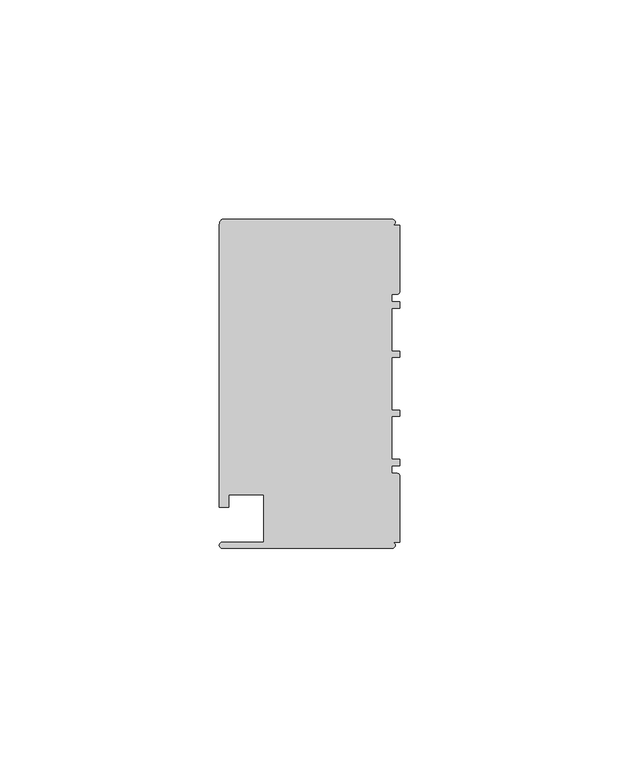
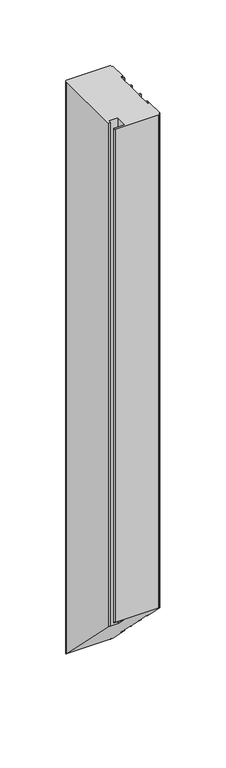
"""IFC4 building model written with IfcOpenShell, lengths in millimetres: member geometry, Прямоугольный импост : 1-AMG-1-Профиль 40Х75 Верх П."""

from ifc_helpers import new_model, si_unit, frame, origin, place, context, project, spatial, circle_curve, ellipse_curve, source, transform, mapped, element, save
from ifc_brep_helpers import plane_surface, cylinder_surface, advanced_brep


def member_78b921d7(model_context):
    return source(origin(), model_context, "Body", "AdvancedBrep", [
        advanced_brep(
        [(-1.7, -37.5, 0.0), (-1.7, -36.1, 0.0), (0.0, -36.1, 0.0), (0.0, -20.95, 0.0), (-0.5, -20.45, 0.0), (-1.8, -20.45, 0.0), (-1.8, -18.65, 0.0), (0.0, -18.65, 0.0), (0.0, -17.25, 0.0), (-1.8, -17.25, 0.0), (-1.8, -7.4, 0.0), (0.0, -7.4, 0.0), (0.0, -6.0, 0.0), (-1.8, -6.0, 0.0), (-1.8, 6.0, 0.0), (0.0, 6.0, 0.0), (0.0, 7.4, 0.0), (-1.8, 7.4, 0.0), (-1.8, 17.25, 0.0), (0.0, 17.25, 0.0), (0.0, 18.65, 0.0), (-1.8, 18.65, 0.0), (-1.8, 20.45, 0.0), (-0.5, 20.45, 0.0), (0.0, 20.95, 0.0), (0.0, 36.1, 0.0), (-1.7, 36.1, 0.0), (-1.7, 37.5, 0.0), (-40.4, 37.5, 0.0), (-41.1, 36.1, 0.0), (-41.1, -28.1, 0.0), (-39.0, -28.1, 0.0), (-39.0, -25.25, 0.0), (-31.0, -25.25, 0.0), (-31.0, -36.1, 0.0), (-40.4, -36.1, 0.0), (-40.4, -37.5, 0.0), (-1.7, -37.5, -461.3849139), (-1.7, -36.1, -462.7849139), (0.0, -36.1, -462.7849139), (0.0, -20.95, -477.9349139), (-0.5, -20.45, -478.4349139), (-1.8, -20.45, -478.4349139), (-1.8, -18.65, -480.2349139), (0.0, -18.65, -480.2349139), (0.0, -17.25, -481.6349139), (-1.8, -17.25, -481.6349139), (-1.8, -7.4, -491.4849139), (0.0, -7.4, -491.4849139), (0.0, -6.0, -492.8849139), (-1.8, -6.0, -492.8849139), (-1.8, 6.0, -504.8849139), (0.0, 6.0, -504.8849139), (0.0, 7.4, -506.2849139), (-1.8, 7.4, -506.2849139), (-1.8, 17.25, -516.1349139), (0.0, 17.25, -516.1349139), (0.0, 18.65, -517.5349139), (-1.8, 18.65, -517.5349139), (-1.8, 20.45, -519.3349139), (-0.5, 20.45, -519.3349139), (0.0, 20.95, -519.8349139), (0.0, 36.1, -534.9849139), (-1.7, 36.1, -534.9849139), (-1.7, 37.5, -536.3849139), (-40.4, 37.5, -536.3849139), (-41.1, 36.1, -534.9849139), (-41.1, -28.1, -470.7849139), (-39.0, -28.1, -470.7849139), (-39.0, -25.25, -473.6349139), (-31.0, -25.25, -473.6349139), (-31.0, -36.1, -462.7849139), (-40.4, -36.1, -462.7849139), (-40.4, -37.5, -461.3849139)],
        [
            (0, 1, circle_curve(frame((-1.7, -36.8, 0.0), z_axis=(0.0, 0.0, 1.0), x_axis=(-1.0, 0.0, 0.0)), 0.7)),
            (1, 2),
            (2, 3),
            (3, 4, circle_curve(frame((-0.5, -20.95, 0.0), z_axis=(0.0, 0.0, 1.0), x_axis=(1.0, 0.0, 0.0)), 0.5)),
            (4, 5),
            (5, 6),
            (6, 7),
            (7, 8),
            (8, 9),
            (9, 10),
            (10, 11),
            (11, 12),
            (12, 13),
            (13, 14),
            (14, 15),
            (15, 16),
            (16, 17),
            (17, 18),
            (18, 19),
            (19, 20),
            (20, 21),
            (21, 22),
            (22, 23),
            (23, 24, circle_curve(frame((-0.5, 20.95, 0.0), z_axis=(0.0, 0.0, 1.0), x_axis=(0.0, -1.0, 0.0)), 0.5)),
            (24, 25),
            (25, 26),
            (26, 27, circle_curve(frame((-1.7, 36.8, 0.0), z_axis=(0.0, 0.0, 1.0), x_axis=(-1.0, 0.0, 0.0)), 0.7)),
            (27, 28),
            (28, 29, circle_curve(frame((-39.7541527, 36.3020763, 0.0), z_axis=(0.0, 0.0, 1.0), x_axis=(1.0, 0.0, 0.0)), 1.3609334)),
            (29, 30),
            (30, 31),
            (31, 32),
            (32, 33),
            (33, 34),
            (34, 35),
            (35, 36, circle_curve(frame((-40.4, -36.8, 0.0), z_axis=(0.0, 0.0, 1.0), x_axis=(-1.0, 0.0, 0.0)), 0.7)),
            (36, 0),
            (0, 37),
            (37, 38, ellipse_curve(frame((-1.7, -36.8, -462.0849139), z_axis=(0.0, 0.7071067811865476, 0.7071067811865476), x_axis=(0.0, -0.7071067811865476, 0.7071067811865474)), 0.9899495, 0.7)),
            (38, 1),
            (38, 39),
            (39, 2),
            (39, 40),
            (40, 3),
            (40, 41, ellipse_curve(frame((-0.5, -20.95, -477.9349139), z_axis=(0.0, 0.7071067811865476, 0.7071067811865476), x_axis=(0.0, -0.7071067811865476, 0.7071067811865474)), 0.7071068, 0.5)),
            (41, 4),
            (41, 42),
            (42, 5),
            (42, 43),
            (43, 6),
            (43, 44),
            (44, 7),
            (44, 45),
            (45, 8),
            (45, 46),
            (46, 9),
            (46, 47),
            (47, 10),
            (47, 48),
            (48, 11),
            (48, 49),
            (49, 12),
            (49, 50),
            (50, 13),
            (50, 51),
            (51, 14),
            (51, 52),
            (52, 15),
            (52, 53),
            (53, 16),
            (53, 54),
            (54, 17),
            (54, 55),
            (55, 18),
            (55, 56),
            (56, 19),
            (56, 57),
            (57, 20),
            (57, 58),
            (58, 21),
            (58, 59),
            (59, 22),
            (59, 60),
            (60, 23),
            (60, 61, ellipse_curve(frame((-0.5, 20.95, -519.8349139), z_axis=(0.0, 0.7071067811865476, 0.7071067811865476), x_axis=(0.0, -0.7071067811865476, 0.7071067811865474)), 0.7071068, 0.5)),
            (61, 24),
            (61, 62),
            (62, 25),
            (62, 63),
            (63, 26),
            (63, 64, ellipse_curve(frame((-1.7, 36.8, -535.6849139), z_axis=(0.0, 0.7071067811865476, 0.7071067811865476), x_axis=(0.0, -0.7071067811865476, 0.7071067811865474)), 0.9899495, 0.7)),
            (64, 27),
            (64, 65),
            (65, 28),
            (65, 66, ellipse_curve(frame((-39.7541527, 36.3020763, -535.1869902), z_axis=(0.0, 0.7071067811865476, 0.7071067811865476), x_axis=(0.0, -0.7071067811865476, 0.7071067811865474)), 1.9246505, 1.3609334)),
            (66, 29),
            (66, 67),
            (67, 30),
            (67, 68),
            (68, 31),
            (68, 69),
            (69, 32),
            (69, 70),
            (70, 33),
            (70, 71),
            (71, 34),
            (71, 72),
            (72, 35),
            (72, 73, ellipse_curve(frame((-40.4, -36.8, -462.0849139), z_axis=(0.0, 0.7071067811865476, 0.7071067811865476), x_axis=(0.0, -0.7071067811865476, 0.7071067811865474)), 0.9899495, 0.7)),
            (73, 36),
            (73, 37),
        ],
        [
            plane_surface(frame((0.0, -55.1674723, 0.0), z_axis=(0.0, 0.0, 1.0), x_axis=(-1.0, 0.0, 0.0))),
            cylinder_surface(frame((-1.7, -36.8, 0.0), z_axis=(0.0, 0.0, 1.0), x_axis=(-1.0, 0.0, 0.0)), 0.7),
            plane_surface(frame((-1.7, -36.1, 0.0), z_axis=(0.0, -1.0, 0.0), x_axis=(0.0, 0.0, -1.0))),
            plane_surface(frame((0.0, -36.1, 0.0), z_axis=(1.0, 0.0, 0.0), x_axis=(0.0, 0.0, -1.0))),
            cylinder_surface(frame((-0.5, -20.95, 0.0), z_axis=(0.0, 0.0, 1.0), x_axis=(1.0, 0.0, 0.0)), 0.5),
            plane_surface(frame((-0.5, -20.45, 0.0), z_axis=(0.0, 1.0, 0.0), x_axis=(0.0, 0.0, -1.0))),
            plane_surface(frame((-1.8, -20.45, 0.0), z_axis=(1.0, 0.0, 0.0), x_axis=(0.0, 0.0, -1.0))),
            plane_surface(frame((-1.8, -18.65, 0.0), z_axis=(0.0, -1.0, 0.0), x_axis=(0.0, 0.0, -1.0))),
            plane_surface(frame((0.0, -18.65, 0.0), z_axis=(1.0, 0.0, 0.0), x_axis=(0.0, 0.0, -1.0))),
            plane_surface(frame((0.0, -17.25, 0.0), z_axis=(0.0, 1.0, 0.0), x_axis=(0.0, 0.0, -1.0))),
            plane_surface(frame((-1.8, -17.25, 0.0), z_axis=(1.0, 0.0, 0.0), x_axis=(0.0, 0.0, -1.0))),
            plane_surface(frame((-1.8, -7.4, 0.0), z_axis=(0.0, -1.0, 0.0), x_axis=(0.0, 0.0, -1.0))),
            plane_surface(frame((0.0, -7.4, 0.0), z_axis=(1.0, 0.0, 0.0), x_axis=(0.0, 0.0, -1.0))),
            plane_surface(frame((0.0, -6.0, 0.0), z_axis=(0.0, 1.0, 0.0), x_axis=(0.0, 0.0, -1.0))),
            plane_surface(frame((-1.8, -6.0, 0.0), z_axis=(1.0, 0.0, 0.0), x_axis=(0.0, 0.0, -1.0))),
            plane_surface(frame((-1.8, 6.0, 0.0), z_axis=(0.0, -1.0, 0.0), x_axis=(0.0, 0.0, -1.0))),
            plane_surface(frame((0.0, 6.0, 0.0), z_axis=(1.0, 0.0, 0.0), x_axis=(0.0, 0.0, -1.0))),
            plane_surface(frame((0.0, 7.4, 0.0), z_axis=(0.0, 1.0, 0.0), x_axis=(0.0, 0.0, -1.0))),
            plane_surface(frame((-1.8, 7.4, 0.0), z_axis=(1.0, 0.0, 0.0), x_axis=(0.0, 0.0, -1.0))),
            plane_surface(frame((-1.8, 17.25, 0.0), z_axis=(0.0, -1.0, 0.0), x_axis=(0.0, 0.0, -1.0))),
            plane_surface(frame((0.0, 17.25, 0.0), z_axis=(1.0, 0.0, 0.0), x_axis=(0.0, 0.0, -1.0))),
            plane_surface(frame((0.0, 18.65, 0.0), z_axis=(0.0, 1.0, 0.0), x_axis=(0.0, 0.0, -1.0))),
            plane_surface(frame((-1.8, 18.65, 0.0), z_axis=(1.0, 0.0, 0.0), x_axis=(0.0, 0.0, -1.0))),
            plane_surface(frame((-1.8, 20.45, 0.0), z_axis=(0.0, -1.0, 0.0), x_axis=(0.0, 0.0, -1.0))),
            cylinder_surface(frame((-0.5, 20.95, 0.0), z_axis=(0.0, 0.0, 1.0), x_axis=(0.0, -1.0, 0.0)), 0.5),
            plane_surface(frame((0.0, 20.95, 0.0), z_axis=(1.0, 0.0, 0.0), x_axis=(0.0, 0.0, -1.0))),
            plane_surface(frame((0.0, 36.1, 0.0), z_axis=(0.0, 1.0, 0.0), x_axis=(0.0, 0.0, -1.0))),
            cylinder_surface(frame((-1.7, 36.8, 0.0), z_axis=(0.0, 0.0, 1.0), x_axis=(-1.0, 0.0, 0.0)), 0.7),
            plane_surface(frame((-1.7, 37.5, 0.0), z_axis=(0.0, 1.0, 0.0), x_axis=(0.0, 0.0, -1.0))),
            cylinder_surface(frame((-39.7541527, 36.3020763, 0.0), z_axis=(0.0, 0.0, 1.0), x_axis=(1.0, 0.0, 0.0)), 1.3609334),
            plane_surface(frame((-41.1, 36.1, 0.0), z_axis=(-1.0, 0.0, 0.0), x_axis=(0.0, 0.0, -1.0))),
            plane_surface(frame((-41.1, -28.1, 0.0), z_axis=(0.0, -1.0, 0.0), x_axis=(0.0, 0.0, -1.0))),
            plane_surface(frame((-39.0, -28.1, 0.0), z_axis=(1.0, 0.0, 0.0), x_axis=(0.0, 0.0, -1.0))),
            plane_surface(frame((-39.0, -25.25, 0.0), z_axis=(0.0, -1.0, 0.0), x_axis=(0.0, 0.0, -1.0))),
            plane_surface(frame((-31.0, -25.25, 0.0), z_axis=(-1.0, 0.0, 0.0), x_axis=(0.0, 0.0, -1.0))),
            plane_surface(frame((-31.0, -36.1, 0.0), z_axis=(0.0, 1.0, 0.0), x_axis=(0.0, 0.0, -1.0))),
            cylinder_surface(frame((-40.4, -36.8, 0.0), z_axis=(0.0, 0.0, 1.0), x_axis=(-1.0, 0.0, 0.0)), 0.7),
            plane_surface(frame((-40.4, -37.5, 0.0), z_axis=(0.0, -1.0, 0.0), x_axis=(0.0, 0.0, -1.0))),
            plane_surface(frame((304.8, 0.0, -498.8849139), z_axis=(0.0, -0.7071067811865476, -0.7071067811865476), x_axis=(0.0, -0.7071067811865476, 0.7071067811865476))),
        ],
        [
            (0, [[1, 2, 3, 4, 5, 6, 7, 8, 9, 10, 11, 12, 13, 14, 15, 16, 17, 18, 19, 20, 21, 22, 23, 24, 25, 26, 27, 28, 29, 30, 31, 32, 33, 34, 35, 36, 37]]),
            (1, [[-1, 38, 39, 40]]),
            (2, [[-2, -40, 41, 42]]),
            (3, [[-3, -42, 43, 44]]),
            (4, [[-4, -44, 45, 46]]),
            (5, [[-5, -46, 47, 48]]),
            (6, [[-6, -48, 49, 50]]),
            (7, [[-7, -50, 51, 52]]),
            (8, [[-8, -52, 53, 54]]),
            (9, [[-9, -54, 55, 56]]),
            (10, [[-10, -56, 57, 58]]),
            (11, [[-11, -58, 59, 60]]),
            (12, [[-12, -60, 61, 62]]),
            (13, [[-13, -62, 63, 64]]),
            (14, [[-14, -64, 65, 66]]),
            (15, [[-15, -66, 67, 68]]),
            (16, [[-16, -68, 69, 70]]),
            (17, [[-17, -70, 71, 72]]),
            (18, [[-18, -72, 73, 74]]),
            (19, [[-19, -74, 75, 76]]),
            (20, [[-20, -76, 77, 78]]),
            (21, [[-21, -78, 79, 80]]),
            (22, [[-22, -80, 81, 82]]),
            (23, [[-23, -82, 83, 84]]),
            (24, [[-24, -84, 85, 86]]),
            (25, [[-25, -86, 87, 88]]),
            (26, [[-26, -88, 89, 90]]),
            (27, [[-27, -90, 91, 92]]),
            (28, [[-28, -92, 93, 94]]),
            (29, [[-29, -94, 95, 96]]),
            (30, [[-30, -96, 97, 98]]),
            (31, [[-31, -98, 99, 100]]),
            (32, [[-32, -100, 101, 102]]),
            (33, [[-33, -102, 103, 104]]),
            (34, [[-34, -104, 105, 106]]),
            (35, [[-35, -106, 107, 108]]),
            (36, [[-36, -108, 109, 110]]),
            (37, [[-37, -110, 111, -38]]),
            (38, [[-111, -109, -107, -105, -103, -101, -99, -97, -95, -93, -91, -89, -87, -85, -83, -81, -79, -77, -75, -73, -71, -69, -67, -65, -63, -61, -59, -57, -55, -53, -51, -49, -47, -45, -43, -41, -39]]),
        ],
    ),
    ])


if __name__ == "__main__":
    model = new_model("IFC4")
    model_context = context("Model", 3, world=origin())
    ifc_project = project(units=[si_unit("LENGTHUNIT", "METRE", prefix="MILLI")], contexts=[model_context])
    site = spatial("IfcSite", under=ifc_project)
    building = spatial("IfcBuilding", under=site)
    placement = place(None, origin())
    member_shape = member_78b921d7(model_context)
    element("IfcMember", 1, ObjectType="Прямоугольный импост : 1-AMG-1-Профиль 40Х75 Верх П", at=placement, inside=building, context=model_context, shape_type="MappedRepresentation", body=[
        mapped(member_shape, transform((0.0, 0.0, 0.0), x_axis=(1.0, 0.0, 0.0), y_axis=(0.0, 1.0, 0.0), z_axis=(0.0, 0.0, 1.0))),
    ])
    save(model, "model.ifc")
